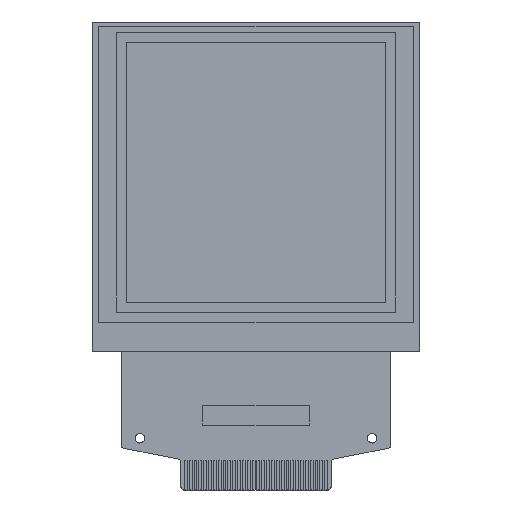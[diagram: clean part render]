
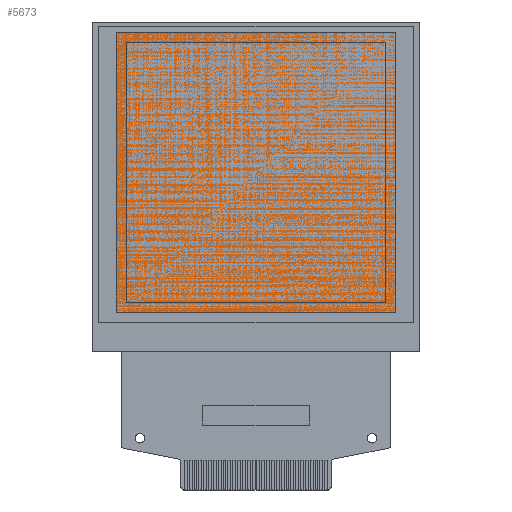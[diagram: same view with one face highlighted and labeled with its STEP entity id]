
A CAD part, top view. The second image highlights one B-rep face of the part: STEP entity #5673.
In plain terms, the highlighted planar face has unit normal (0, 0, 1).
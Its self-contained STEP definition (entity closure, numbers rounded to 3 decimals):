
#184 = EDGE_CURVE ( 'NONE', #3153, #4048, #2908, .T. ) ;
#195 = VECTOR ( 'NONE', #5729, 1000. ) ;
#400 = EDGE_CURVE ( 'NONE', #4048, #5549, #2916, .T. ) ;
#452 = DIRECTION ( 'NONE',  ( 1., 0., 0. ) ) ;
#467 = AXIS2_PLACEMENT_3D ( 'NONE', #3104, #4913, #452 ) ;
#662 = VERTEX_POINT ( 'NONE', #4217 ) ;
#1063 = VECTOR ( 'NONE', #1881, 1000. ) ;
#1588 = VECTOR ( 'NONE', #3635, 1000. ) ;
#1836 = CARTESIAN_POINT ( 'NONE',  ( -14.428, -12.964, 0.9 ) ) ;
#1881 = DIRECTION ( 'NONE',  ( -1., 0., 0. ) ) ;
#1907 = CARTESIAN_POINT ( 'NONE',  ( 14.427, -12.964, 0.9 ) ) ;
#2246 = LINE ( 'NONE', #5025, #1063 ) ;
#2350 = EDGE_CURVE ( 'NONE', #5549, #662, #2246, .T. ) ;
#2725 = LINE ( 'NONE', #5282, #195 ) ;
#2743 = ORIENTED_EDGE ( 'NONE', *, *, #2350, .T. ) ;
#2766 = VECTOR ( 'NONE', #4219, 1000. ) ;
#2908 = LINE ( 'NONE', #4074, #1588 ) ;
#2916 = LINE ( 'NONE', #2985, #2766 ) ;
#2985 = CARTESIAN_POINT ( 'NONE',  ( 14.427, 15.9, 0.9 ) ) ;
#3094 = EDGE_LOOP ( 'NONE', ( #3804, #5703, #3386, #2743 ) ) ;
#3104 = CARTESIAN_POINT ( 'NONE',  ( 0., 0., 0.9 ) ) ;
#3153 = VERTEX_POINT ( 'NONE', #1836 ) ;
#3386 = ORIENTED_EDGE ( 'NONE', *, *, #400, .T. ) ;
#3635 = DIRECTION ( 'NONE',  ( 1., 0., 0. ) ) ;
#3804 = ORIENTED_EDGE ( 'NONE', *, *, #4619, .T. ) ;
#4048 = VERTEX_POINT ( 'NONE', #1907 ) ;
#4074 = CARTESIAN_POINT ( 'NONE',  ( -14.428, -12.964, 0.9 ) ) ;
#4186 = FACE_OUTER_BOUND ( 'NONE', #3094, .T. ) ;
#4192 = CARTESIAN_POINT ( 'NONE',  ( 14.427, 15.9, 0.9 ) ) ;
#4217 = CARTESIAN_POINT ( 'NONE',  ( -14.428, 15.9, 0.9 ) ) ;
#4219 = DIRECTION ( 'NONE',  ( 0., 1., 0. ) ) ;
#4619 = EDGE_CURVE ( 'NONE', #662, #3153, #2725, .T. ) ;
#4913 = DIRECTION ( 'NONE',  ( 0., 0., 1. ) ) ;
#4949 = PLANE ( 'NONE',  #467 ) ;
#5025 = CARTESIAN_POINT ( 'NONE',  ( -14.428, 15.9, 0.9 ) ) ;
#5282 = CARTESIAN_POINT ( 'NONE',  ( -14.428, 15.9, 0.9 ) ) ;
#5549 = VERTEX_POINT ( 'NONE', #4192 ) ;
#5673 = ADVANCED_FACE ( 'NONE', ( #4186 ), #4949, .T. ) ;
#5703 = ORIENTED_EDGE ( 'NONE', *, *, #184, .T. ) ;
#5729 = DIRECTION ( 'NONE',  ( 0., -1., 0. ) ) ;
